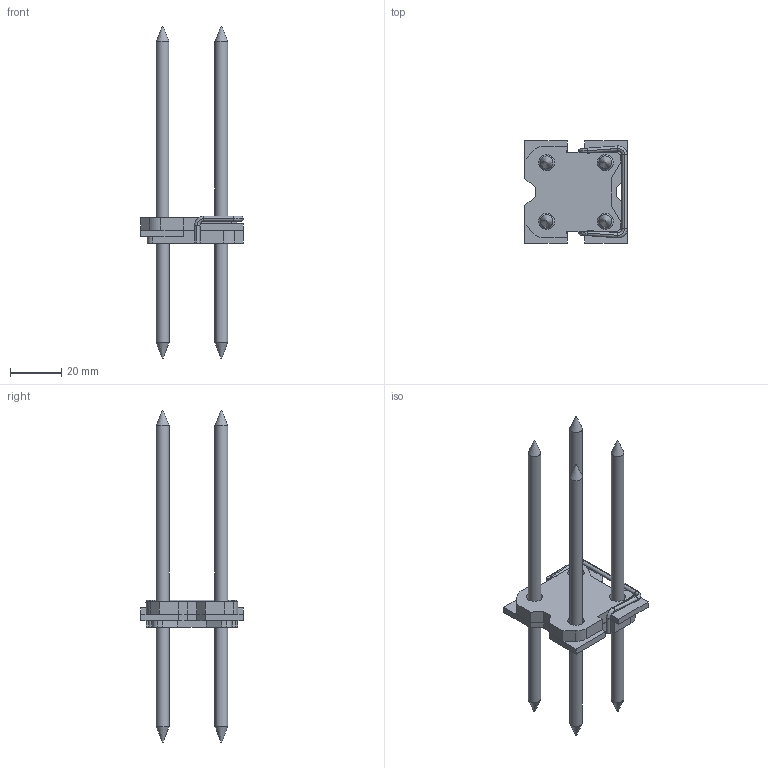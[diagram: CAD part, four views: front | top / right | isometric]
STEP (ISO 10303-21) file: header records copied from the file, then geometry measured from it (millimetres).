
FILE_DESCRIPTION(/* description */ ('Unknown'),/* implementation_level */ '2;1');
FILE_NAME(/* name */ 'RICON_40x40_EA_4xSK5x50_4xSK5x80',/* time_stamp */ '2022-03-08T11:17:20+01:00',/* author */ ('Unknown'),/* organization */ ('Unknown'),/* preprocessor_version */ 'ST-DEVELOPER v16.7',/* originating_system */ 'Solid Edge',/* authorisation */ 'Unknown');
FILE_SCHEMA (('AUTOMOTIVE_DESIGN {1 0 10303 214 3 1 1}'));
Length unit declared in the file: millimetre
Products named in the file (8): RICON_40x40_4xSK5x50_4xSK5x80; RICON_40x40_SK5x50; RICON_40x40_reduzierte Darstellung; Z533_SK_Schraube_5x50_Ricon_reduzierte Darstellung; RICON_40x40_gegenteil_SK5x80; RICON_40x40_Gegenteil_reduzierte Darstellung; Z534_SK_Schraube_5x80_Ricon_reduzierte Darstellung; sperre_RICON_40
Assembly tree (13 placements, depth 3):
  RICON_40x40_4xSK5x50_4xSK5x80
    RICON_40x40_SK5x50
      RICON_40x40_reduzierte Darstellung
      Z533_SK_Schraube_5x50_Ricon_reduzierte Darstellung  x4
    RICON_40x40_gegenteil_SK5x80
      RICON_40x40_Gegenteil_reduzierte Darstellung
      Z534_SK_Schraube_5x80_Ricon_reduzierte Darstellung  x4
    sperre_RICON_40
Bounding box: 40 x 40 x 130 mm (x, y, z)
Volume: 22102.1 mm3; surface area: 17105.8 mm2
Topology: 11 solids, 11 shells, 202 faces, 470 edges, 294 vertices
Faces by surface type: plane 102, cylinder 67, cone 17, bspline 8, torus 8
Full cylindrical faces by diameter (mm): 5 x8, 6 x4, 6.3 x8, 10 x4, 10.2 x4
Entity records: 5042 total; most frequent: CARTESIAN_POINT 930, DIRECTION 842, ORIENTED_EDGE 776, EDGE_CURVE 388, AXIS2_PLACEMENT_3D 288, LINE 266, VECTOR 266, VERTEX_POINT 256
